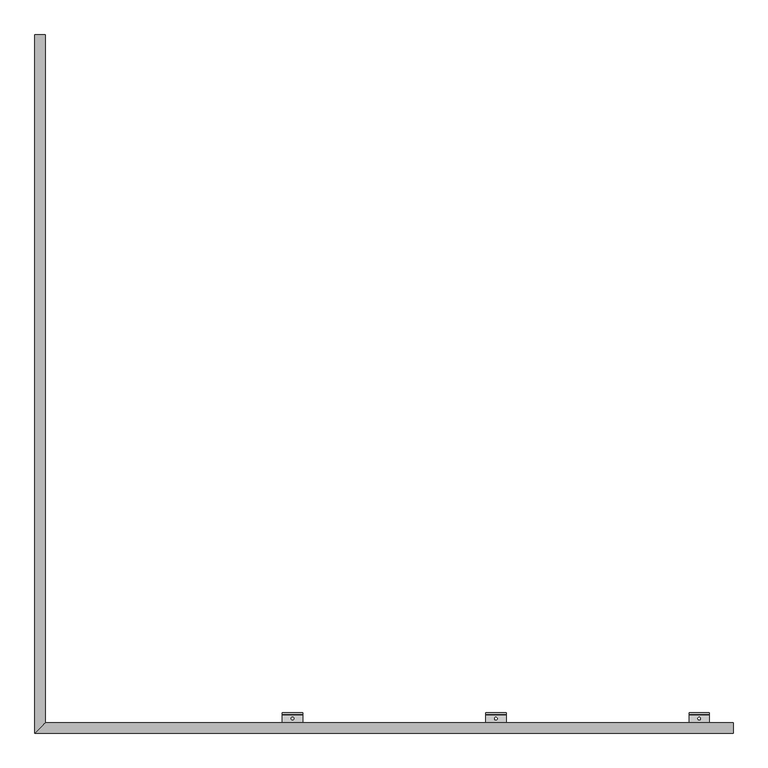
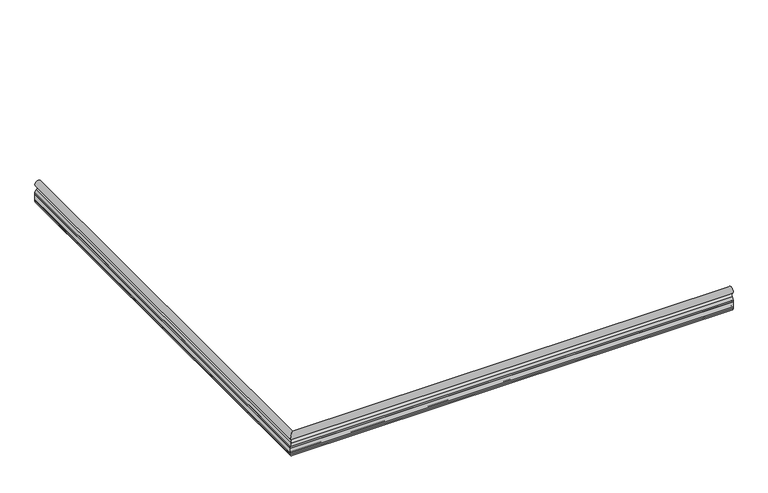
"""IFC4 building model written with IfcOpenShell, lengths in millimetres: railing geometry, Handrail-InPro-HR12-C-Prism-Metal_Bracket-Wood."""

from ifc_helpers import new_model, si_unit, frame, origin, place, context, project, spatial, polyline, circle_curve, ellipse_curve, faceted_brep, source, transform, mapped, element, save
from ifc_brep_helpers import plane_surface, cylinder_surface, revolved_surface, advanced_brep


def railing_651f2b22(model_context):
    return source(origin(), model_context, "Body", "SolidModel", [
        advanced_brep(
        [(-5387.2882624, 4334.5443008, 774.7), (-5406.3382624, 4334.5443008, 793.75), (-5406.3382624, 4334.5443008, 801.6875), (-5399.790597, 4334.5443008, 802.0967291), (-5399.9882624, 4334.5443008, 805.259375), (-5399.9882624, 4334.5443008, 831.05625), (-5399.790597, 4334.5443008, 834.2188959), (-5406.3382624, 4334.5443008, 834.628125), (-5406.3382624, 4334.5443008, 842.9625), (-5398.3936731, 4334.5443008, 858.8375), (-5398.3936731, 4334.5443008, 879.871875), (-5376.1828517, 4334.5443008, 879.871875), (-5373.0007624, 4334.5443008, 863.203125), (-5368.2382624, 4334.5443008, 857.25), (-5368.2382624, 4334.5443008, 779.4625), (-5373.0007624, 4334.5443008, 774.7), (-5387.2882624, 1737.3943008, 774.7), (-5406.3382624, 1718.3443008, 793.75), (-5406.3382624, 1718.3443008, 801.6875), (-5399.790597, 1724.8919661, 802.0967291), (-5399.9882624, 1724.6943008, 805.259375), (-5399.9882624, 1724.6943008, 831.05625), (-5399.790597, 1724.8919661, 834.2188959), (-5406.3382624, 1718.3443008, 834.628125), (-5406.3382624, 1718.3443008, 842.9625), (-5398.3936731, 1726.2888901, 858.8375), (-5398.3936731, 1726.2888901, 879.871875), (-5376.1828517, 1748.4997115, 879.871875), (-5373.0007624, 1751.6818008, 863.203125), (-5368.2382624, 1756.4443008, 857.25), (-5368.2382624, 1756.4443008, 779.4625), (-5373.0007624, 1751.6818008, 774.7), (-2790.1382624, 1737.3943008, 774.7), (-2790.1382624, 1751.6818008, 774.7), (-2790.1382624, 1756.4443008, 779.4625), (-2790.1382624, 1756.4443008, 857.25), (-2790.1382624, 1751.6818008, 863.203125), (-2790.1382624, 1748.4997115, 879.871875), (-2790.1382624, 1726.2888901, 879.871875), (-2790.1382624, 1726.2888901, 858.8375), (-2790.1382624, 1718.3443008, 842.9625), (-2790.1382624, 1718.3443008, 834.628125), (-2790.1382624, 1724.8919661, 834.2188959), (-2790.1382624, 1724.6943008, 831.05625), (-2790.1382624, 1724.6943008, 805.259375), (-2790.1382624, 1724.8919661, 802.0967291), (-2790.1382624, 1718.3443008, 801.6875), (-2790.1382624, 1718.3443008, 793.75)],
        [
            (0, 1, circle_curve(frame((-5387.2882624, 4334.5443008, 793.75), z_axis=(0.0, 1.0, 0.0), x_axis=(-1.0, 0.0, 0.0)), 19.05)),
            (1, 2),
            (2, 3),
            (3, 4, circle_curve(frame((-5399.9882624, 4334.5443008, 803.671875), z_axis=(0.0, -1.0, 0.0), x_axis=(-1.0, 0.0, 0.0)), 1.5875)),
            (4, 5),
            (5, 6, circle_curve(frame((-5399.9882624, 4334.5443008, 832.64375), z_axis=(0.0, -1.0, 0.0), x_axis=(-1.0, 0.0, 0.0)), 1.5875)),
            (6, 7),
            (7, 8),
            (8, 9, circle_curve(frame((-5386.5051337, 4334.5443008, 842.9625), z_axis=(0.0, 1.0, 0.0), x_axis=(-1.0, 0.0, 0.0)), 19.8331287)),
            (9, 10, circle_curve(frame((-5405.5688296, 4334.5443008, 869.3546875), z_axis=(0.0, -1.0, 0.0), x_axis=(-1.0, 0.0, 0.0)), 12.7316183)),
            (10, 11, circle_curve(frame((-5387.2882624, 4334.5443008, 895.35), z_axis=(0.0, 1.0, 0.0), x_axis=(-1.0, 0.0, 0.0)), 19.05)),
            (11, 12, circle_curve(frame((-5370.1173629, 4334.5443008, 872.3916781), z_axis=(0.0, -1.0, 0.0), x_axis=(-1.0, 0.0, 0.0)), 9.6303427)),
            (12, 13, circle_curve(frame((-5375.0460741, 4334.5443008, 856.6853131), z_axis=(0.0, 1.0, 0.0), x_axis=(-1.0, 0.0, 0.0)), 6.8311911)),
            (13, 14),
            (14, 15, circle_curve(frame((-5373.0007624, 4334.5443008, 779.4625), z_axis=(0.0, 1.0, 0.0), x_axis=(-1.0, 0.0, 0.0)), 4.7625)),
            (15, 0),
            (0, 16),
            (16, 17, ellipse_curve(frame((-5387.2882624, 1737.3943008, 793.75), z_axis=(-0.7071067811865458, 0.7071067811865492, 0.0), x_axis=(0.7071067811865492, 0.7071067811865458, 0.0)), 26.9407684, 19.05)),
            (17, 1),
            (17, 18),
            (18, 2),
            (18, 19),
            (19, 3),
            (19, 20, ellipse_curve(frame((-5399.9882624, 1724.6943008, 803.671875), z_axis=(0.7071067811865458, -0.7071067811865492, 0.0), x_axis=(-0.7071067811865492, -0.7071067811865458, 0.0)), 2.245064, 1.5875)),
            (20, 4),
            (20, 21),
            (21, 5),
            (21, 22, ellipse_curve(frame((-5399.9882624, 1724.6943008, 832.64375), z_axis=(0.7071067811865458, -0.7071067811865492, 0.0), x_axis=(-0.7071067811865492, -0.7071067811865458, 0.0)), 2.245064, 1.5875)),
            (22, 6),
            (22, 23),
            (23, 7),
            (23, 24),
            (24, 8),
            (24, 25, ellipse_curve(frame((-5386.5051337, 1738.1774295, 842.9625), z_axis=(-0.7071067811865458, 0.7071067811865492, 0.0), x_axis=(0.7071067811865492, 0.7071067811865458, 0.0)), 28.0482796, 19.8331287)),
            (25, 9),
            (25, 26, ellipse_curve(frame((-5405.5688296, 1719.1137335, 869.3546875), z_axis=(0.7071067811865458, -0.7071067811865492, 0.0), x_axis=(-0.7071067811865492, -0.7071067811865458, 0.0)), 18.0052273, 12.7316183)),
            (26, 10),
            (26, 27, ellipse_curve(frame((-5387.2882624, 1737.3943008, 895.35), z_axis=(-0.7071067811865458, 0.7071067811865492, 0.0), x_axis=(0.7071067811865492, 0.7071067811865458, 0.0)), 26.9407684, 19.05)),
            (27, 11),
            (27, 28, ellipse_curve(frame((-5370.1173629, 1754.5652002, 872.3916781), z_axis=(0.7071067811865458, -0.7071067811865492, 0.0), x_axis=(-0.7071067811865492, -0.7071067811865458, 0.0)), 13.6193612, 9.6303427)),
            (28, 12),
            (28, 29, ellipse_curve(frame((-5375.0460741, 1749.6364891, 856.6853131), z_axis=(-0.7071067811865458, 0.7071067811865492, 0.0), x_axis=(0.7071067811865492, 0.7071067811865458, 0.0)), 9.6607631, 6.8311911)),
            (29, 13),
            (29, 30),
            (30, 14),
            (30, 31, ellipse_curve(frame((-5373.0007624, 1751.6818008, 779.4625), z_axis=(-0.7071067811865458, 0.7071067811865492, 0.0), x_axis=(0.7071067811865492, 0.7071067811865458, 0.0)), 6.7351921, 4.7625)),
            (31, 15),
            (31, 16),
            (32, 33),
            (33, 34, circle_curve(frame((-2790.1382624, 1751.6818008, 779.4625), z_axis=(1.0, 0.0, 0.0), x_axis=(0.0, -1.0, 0.0)), 4.7625)),
            (34, 35),
            (35, 36, circle_curve(frame((-2790.1382624, 1749.6364891, 856.6853131), z_axis=(1.0, 0.0, 0.0), x_axis=(0.0, -1.0, 0.0)), 6.8311911)),
            (36, 37, circle_curve(frame((-2790.1382624, 1754.5652002, 872.3916781), z_axis=(-1.0, 0.0, 0.0), x_axis=(0.0, -1.0, 0.0)), 9.6303427)),
            (37, 38, circle_curve(frame((-2790.1382624, 1737.3943008, 895.35), z_axis=(1.0, 0.0, 0.0), x_axis=(0.0, -1.0, 0.0)), 19.05)),
            (38, 39, circle_curve(frame((-2790.1382624, 1719.1137335, 869.3546875), z_axis=(-1.0, 0.0, 0.0), x_axis=(0.0, -1.0, 0.0)), 12.7316183)),
            (39, 40, circle_curve(frame((-2790.1382624, 1738.1774295, 842.9625), z_axis=(1.0, 0.0, 0.0), x_axis=(0.0, -1.0, 0.0)), 19.8331287)),
            (40, 41),
            (41, 42),
            (42, 43, circle_curve(frame((-2790.1382624, 1724.6943008, 832.64375), z_axis=(-1.0, 0.0, 0.0), x_axis=(0.0, -1.0, 0.0)), 1.5875)),
            (43, 44),
            (44, 45, circle_curve(frame((-2790.1382624, 1724.6943008, 803.671875), z_axis=(-1.0, 0.0, 0.0), x_axis=(0.0, -1.0, 0.0)), 1.5875)),
            (45, 46),
            (46, 47),
            (47, 32, circle_curve(frame((-2790.1382624, 1737.3943008, 793.75), z_axis=(1.0, 0.0, 0.0), x_axis=(0.0, -1.0, 0.0)), 19.05)),
            (16, 32),
            (47, 17),
            (46, 18),
            (45, 19),
            (44, 20),
            (43, 21),
            (42, 22),
            (41, 23),
            (40, 24),
            (39, 25),
            (38, 26),
            (37, 27),
            (36, 28),
            (35, 29),
            (34, 30),
            (33, 31),
        ],
        [
            plane_surface(frame((-5330.1382624, 4334.5443008, 914.4), z_axis=(0.0, 1.0, 0.0), x_axis=(0.0, 0.0, -1.0))),
            cylinder_surface(frame((-5387.2882624, 4334.5443008, 793.75), z_axis=(0.0, 1.0, 0.0), x_axis=(-1.0, 0.0, 0.0)), 19.05),
            plane_surface(frame((-5406.3382624, 4334.5443008, 793.75), z_axis=(-1.0, 0.0, 0.0), x_axis=(0.0, -1.0, 0.0))),
            plane_surface(frame((-5406.3382624, 4334.5443008, 801.6875), z_axis=(-0.06237828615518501, 0.0, 0.9980525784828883), x_axis=(0.0, -1.0, 0.0))),
            revolved_surface(polyline([(-5401.5757624, 1723.106800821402, 803.671875), (-5401.5757624, 4334.5443008, 803.671875)]), (-5399.9882624, 4334.5443008, 803.671875), (0.0, -1.0, 0.0)),
            plane_surface(frame((-5399.9882624, 4334.5443008, 805.259375), z_axis=(-1.0, 0.0, 0.0), x_axis=(0.0, -1.0, 0.0))),
            revolved_surface(polyline([(-5401.5757624, 1723.106800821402, 832.64375), (-5401.5757624, 4334.5443008, 832.64375)]), (-5399.9882624, 4334.5443008, 832.64375), (0.0, -1.0, 0.0)),
            plane_surface(frame((-5399.790597, 4334.5443008, 834.2188959), z_axis=(-0.062378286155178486, 0.0, -0.9980525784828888), x_axis=(0.0, -1.0, 0.0))),
            plane_surface(frame((-5406.3382624, 4334.5443008, 834.628125), z_axis=(-1.0, 0.0, 0.0), x_axis=(0.0, -1.0, 0.0))),
            cylinder_surface(frame((-5386.5051337, 4334.5443008, 842.9625), z_axis=(0.0, 1.0, 0.0), x_axis=(-1.0, 0.0, 0.0)), 19.8331287),
            revolved_surface(polyline([(-5418.3004479, 1706.382115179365, 869.3546875), (-5418.3004479, 4334.5443008, 869.3546875)]), (-5405.5688296, 4334.5443008, 869.3546875), (0.0, -1.0, 0.0)),
            cylinder_surface(frame((-5387.2882624, 4334.5443008, 895.35), z_axis=(0.0, 1.0, 0.0), x_axis=(-1.0, 0.0, 0.0)), 19.05),
            revolved_surface(polyline([(-5379.747705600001, 1744.9348575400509, 872.3916781), (-5379.747705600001, 4334.5443008, 872.3916781)]), (-5370.1173629, 4334.5443008, 872.3916781), (0.0, -1.0, 0.0)),
            cylinder_surface(frame((-5375.0460741, 4334.5443008, 856.6853131), z_axis=(0.0, 1.0, 0.0), x_axis=(-1.0, 0.0, 0.0)), 6.8311911),
            plane_surface(frame((-5368.2382624, 4334.5443008, 857.25), z_axis=(1.0, 0.0, 0.0), x_axis=(0.0, -1.0, 0.0))),
            cylinder_surface(frame((-5373.0007624, 4334.5443008, 779.4625), z_axis=(0.0, 1.0, 0.0), x_axis=(-1.0, 0.0, 0.0)), 4.7625),
            plane_surface(frame((-5373.0007624, 4334.5443008, 774.7), z_axis=(0.0, 0.0, -1.0), x_axis=(0.0, -1.0, 0.0))),
            plane_surface(frame((-2790.1382624, 1794.5443008, 914.4), z_axis=(1.0, 0.0, 0.0), x_axis=(0.0, 1.0, 0.0))),
            cylinder_surface(frame((-5330.1382624, 1737.3943008, 793.75), z_axis=(-1.0, 0.0, 0.0), x_axis=(0.0, -1.0, 0.0)), 19.05),
            plane_surface(frame((-5406.3382624, 1718.3443008, 793.75), z_axis=(0.0, -1.0, 0.0), x_axis=(1.0, 0.0, 0.0))),
            plane_surface(frame((-5406.3382624, 1718.3443008, 801.6875), z_axis=(0.0, -0.06237828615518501, 0.9980525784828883), x_axis=(1.0, 0.0, 0.0))),
            revolved_surface(polyline([(-2790.1382624, 1723.1068008, 803.671875), (-5401.575762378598, 1723.1068008, 803.671875)]), (-5330.1382624, 1724.6943008, 803.671875), (1.0, 0.0, 0.0)),
            plane_surface(frame((-5399.9882624, 1724.6943008, 805.259375), z_axis=(0.0, -1.0, 0.0), x_axis=(1.0, 0.0, 0.0))),
            revolved_surface(polyline([(-2790.1382624, 1723.1068008, 832.64375), (-5401.575762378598, 1723.1068008, 832.64375)]), (-5330.1382624, 1724.6943008, 832.64375), (1.0, 0.0, 0.0)),
            plane_surface(frame((-5399.790597, 1724.8919661, 834.2188959), z_axis=(0.0, -0.062378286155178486, -0.9980525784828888), x_axis=(1.0, 0.0, 0.0))),
            plane_surface(frame((-5406.3382624, 1718.3443008, 834.628125), z_axis=(0.0, -1.0, 0.0), x_axis=(1.0, 0.0, 0.0))),
            cylinder_surface(frame((-5330.1382624, 1738.1774295, 842.9625), z_axis=(-1.0, 0.0, 0.0), x_axis=(0.0, -1.0, 0.0)), 19.8331287),
            revolved_surface(polyline([(-2790.1382624, 1706.3821152, 869.3546875), (-5418.300447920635, 1706.3821152, 869.3546875)]), (-5330.1382624, 1719.1137335, 869.3546875), (1.0, 0.0, 0.0)),
            cylinder_surface(frame((-5330.1382624, 1737.3943008, 895.35), z_axis=(-1.0, 0.0, 0.0), x_axis=(0.0, -1.0, 0.0)), 19.05),
            revolved_surface(polyline([(-2790.1382624, 1744.9348575, 872.3916781), (-5379.747705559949, 1744.9348575, 872.3916781)]), (-5330.1382624, 1754.5652002, 872.3916781), (1.0, 0.0, 0.0)),
            cylinder_surface(frame((-5330.1382624, 1749.6364891, 856.6853131), z_axis=(-1.0, 0.0, 0.0), x_axis=(0.0, -1.0, 0.0)), 6.8311911),
            plane_surface(frame((-5368.2382624, 1756.4443008, 857.25), z_axis=(0.0, 1.0, 0.0), x_axis=(1.0, 0.0, 0.0))),
            cylinder_surface(frame((-5330.1382624, 1751.6818008, 779.4625), z_axis=(-1.0, 0.0, 0.0), x_axis=(0.0, -1.0, 0.0)), 4.7625),
            plane_surface(frame((-5373.0007624, 1751.6818008, 774.7), z_axis=(0.0, 0.0, -1.0), x_axis=(1.0, 0.0, 0.0))),
        ],
        [
            (0, [[1, 2, 3, 4, 5, 6, 7, 8, 9, 10, 11, 12, 13, 14, 15, 16]]),
            (1, [[-1, 17, 18, 19]]),
            (2, [[-2, -19, 20, 21]]),
            (3, [[-3, -21, 22, 23]]),
            (4, [[-4, -23, 24, 25]]),
            (5, [[-5, -25, 26, 27]]),
            (6, [[-6, -27, 28, 29]]),
            (7, [[-7, -29, 30, 31]]),
            (8, [[-8, -31, 32, 33]]),
            (9, [[-9, -33, 34, 35]]),
            (10, [[-10, -35, 36, 37]]),
            (11, [[-11, -37, 38, 39]]),
            (12, [[-12, -39, 40, 41]]),
            (13, [[-13, -41, 42, 43]]),
            (14, [[-14, -43, 44, 45]]),
            (15, [[-15, -45, 46, 47]]),
            (16, [[-16, -47, 48, -17]]),
            (17, [[49, 50, 51, 52, 53, 54, 55, 56, 57, 58, 59, 60, 61, 62, 63, 64]]),
            (18, [[-18, 65, -64, 66]]),
            (19, [[-20, -66, -63, 67]]),
            (20, [[-22, -67, -62, 68]]),
            (21, [[-24, -68, -61, 69]]),
            (22, [[-26, -69, -60, 70]]),
            (23, [[-28, -70, -59, 71]]),
            (24, [[-30, -71, -58, 72]]),
            (25, [[-32, -72, -57, 73]]),
            (26, [[-34, -73, -56, 74]]),
            (27, [[-36, -74, -55, 75]]),
            (28, [[-38, -75, -54, 76]]),
            (29, [[-40, -76, -53, 77]]),
            (30, [[-42, -77, -52, 78]]),
            (31, [[-44, -78, -51, 79]]),
            (32, [[-46, -79, -50, 80]]),
            (33, [[-48, -80, -49, -65]]),
        ],
    ),
        faceted_brep([(-5406.3382624, 4334.5443008, 802.48125), (-5406.3382624, 4334.5443008, 834.1320312), (-5399.9882624, 4334.5443008, 834.1320313), (-5399.9882624, 4334.5443008, 802.48125), (-5406.3382624, 1718.3443008, 802.48125), (-5406.3382624, 1718.3443008, 834.1320312), (-5399.9882624, 1724.6943008, 834.1320313), (-5399.9882624, 1724.6943008, 802.48125), (-2790.1382624, 1718.3443008, 802.48125), (-2790.1382624, 1724.6943008, 802.48125), (-2790.1382624, 1724.6943008, 834.1320312), (-2790.1382624, 1718.3443008, 834.1320313)], [[[0, 1, 2, 3]], [[1, 0, 4, 5]], [[2, 1, 5, 6]], [[3, 2, 6, 7]], [[0, 3, 7, 4]], [[8, 9, 10, 11]], [[5, 4, 8, 11]], [[6, 5, 11, 10]], [[7, 6, 10, 9]], [[4, 7, 9, 8]]]),
        advanced_brep(
        [(-2879.0382624, 1762.7943008, 844.55), (-2879.0382624, 1785.0193008, 844.55), (-2879.0382624, 1785.0193008, 850.9), (-2879.0382624, 1756.4443008, 850.9), (-2879.0382624, 1756.4443008, 812.8), (-2879.0382624, 1762.7943008, 812.8), (-2955.2382624, 1762.7943008, 844.55), (-2955.2382624, 1762.7943008, 812.8), (-2955.2382624, 1756.4443008, 812.8), (-2955.2382624, 1756.4443008, 850.9), (-2955.2382624, 1785.0193008, 850.9), (-2955.2382624, 1785.0193008, 844.55), (-2921.9007624, 1772.7161758, 844.55), (-2912.3757624, 1772.7161758, 844.55), (-2912.3757624, 1772.7161758, 850.9), (-2921.9007624, 1772.7161758, 850.9), (-2933.4704624, 1756.4443008, 825.3070671), (-2938.9060624, 1756.4443008, 825.3070671), (-2895.3704624, 1756.4443008, 825.3070671), (-2900.8060624, 1756.4443008, 825.3070671), (-2938.9060624, 1762.7943008, 825.3070671), (-2933.4704624, 1762.7943008, 825.3070671), (-2900.8060624, 1762.7943008, 825.3070671), (-2895.3704624, 1762.7943008, 825.3070671)],
        [
            (0, 1),
            (1, 2),
            (2, 3),
            (3, 4),
            (4, 5),
            (5, 0),
            (6, 7),
            (7, 8),
            (8, 9),
            (9, 10),
            (10, 11),
            (11, 6),
            (0, 6),
            (11, 1),
            (12, 13, circle_curve(frame((-2917.1382624, 1772.7161758, 844.55), z_axis=(0.0, 0.0, 1.0), x_axis=(1.0, 0.0, 0.0)), 4.7625)),
            (13, 12, circle_curve(frame((-2917.1382624, 1772.7161758, 844.55), z_axis=(0.0, 0.0, 1.0), x_axis=(1.0, 0.0, 0.0)), 4.7625)),
            (10, 2),
            (9, 3),
            (14, 15, circle_curve(frame((-2917.1382624, 1772.7161758, 850.9), z_axis=(0.0, 0.0, -1.0), x_axis=(1.0, 0.0, 0.0)), 4.7625)),
            (15, 14, circle_curve(frame((-2917.1382624, 1772.7161758, 850.9), z_axis=(0.0, 0.0, -1.0), x_axis=(1.0, 0.0, 0.0)), 4.7625)),
            (8, 4),
            (16, 17, circle_curve(frame((-2936.1882624, 1756.4443008, 825.3070671), z_axis=(0.0, 1.0, 0.0), x_axis=(-1.0, 0.0, 0.0)), 2.7178)),
            (17, 16, circle_curve(frame((-2936.1882624, 1756.4443008, 825.3070671), z_axis=(0.0, 1.0, 0.0), x_axis=(-1.0, 0.0, 0.0)), 2.7178)),
            (18, 19, circle_curve(frame((-2898.0882624, 1756.4443008, 825.3070671), z_axis=(0.0, 1.0, 0.0), x_axis=(-1.0, 0.0, 0.0)), 2.7178)),
            (19, 18, circle_curve(frame((-2898.0882624, 1756.4443008, 825.3070671), z_axis=(0.0, 1.0, 0.0), x_axis=(-1.0, 0.0, 0.0)), 2.7178)),
            (7, 5),
            (20, 21, circle_curve(frame((-2936.1882624, 1762.7943008, 825.3070671), z_axis=(0.0, -1.0, 0.0), x_axis=(-1.0, 0.0, 0.0)), 2.7178)),
            (21, 20, circle_curve(frame((-2936.1882624, 1762.7943008, 825.3070671), z_axis=(0.0, -1.0, 0.0), x_axis=(-1.0, 0.0, 0.0)), 2.7178)),
            (22, 23, circle_curve(frame((-2898.0882624, 1762.7943008, 825.3070671), z_axis=(0.0, -1.0, 0.0), x_axis=(-1.0, 0.0, 0.0)), 2.7178)),
            (23, 22, circle_curve(frame((-2898.0882624, 1762.7943008, 825.3070671), z_axis=(0.0, -1.0, 0.0), x_axis=(-1.0, 0.0, 0.0)), 2.7178)),
            (12, 15),
            (14, 13),
            (20, 17),
            (16, 21),
            (22, 19),
            (18, 23),
        ],
        [
            plane_surface(frame((-2879.0382624, 1762.7943008, 844.55), z_axis=(1.0, 0.0, 0.0), x_axis=(0.0, 1.0, 0.0))),
            plane_surface(frame((-2955.2382624, 1762.7943008, 844.55), z_axis=(-1.0, 0.0, 0.0), x_axis=(0.0, -1.0, 0.0))),
            plane_surface(frame((-2879.0382624, 1762.7943008, 844.55), z_axis=(0.0, 0.0, -1.0), x_axis=(-1.0, 0.0, 0.0))),
            plane_surface(frame((-2879.0382624, 1785.0193008, 844.55), z_axis=(0.0, 1.0, 0.0), x_axis=(-1.0, 0.0, 0.0))),
            plane_surface(frame((-2879.0382624, 1785.0193008, 850.9), z_axis=(0.0, 0.0, 1.0), x_axis=(-1.0, 0.0, 0.0))),
            plane_surface(frame((-2879.0382624, 1756.4443008, 850.9), z_axis=(0.0, -1.0, 0.0), x_axis=(-1.0, 0.0, 0.0))),
            plane_surface(frame((-2879.0382624, 1756.4443008, 812.8), z_axis=(0.0, 0.0, -1.0), x_axis=(-1.0, 0.0, 0.0))),
            plane_surface(frame((-2879.0382624, 1762.7943008, 812.8), z_axis=(0.0, 1.0, 0.0), x_axis=(-1.0, 0.0, 0.0))),
            revolved_surface(polyline([(-2912.3757624, 1772.7161758, 850.9), (-2912.3757624, 1772.7161758, 844.55)]), (-2917.1382624, 1772.7161758, 812.8), (0.0, 0.0, 1.0)),
            revolved_surface(polyline([(-2938.9060624, 1762.7943008, 825.3070671), (-2938.9060624, 1756.4443008, 825.3070671)]), (-2936.1882624, 1756.4443008, 825.3070671), (0.0, 1.0, 0.0)),
            revolved_surface(polyline([(-2900.8060624, 1762.7943008, 825.3070671), (-2900.8060624, 1756.4443008, 825.3070671)]), (-2898.0882624, 1794.5443008, 825.3070671), (0.0, 1.0, 0.0)),
        ],
        [
            (0, [[1, 2, 3, 4, 5, 6]]),
            (1, [[7, 8, 9, 10, 11, 12]]),
            (2, [[-1, 13, -12, 14], [15, 16]]),
            (3, [[-2, -14, -11, 17]]),
            (4, [[-3, -17, -10, 18], [19, 20]]),
            (5, [[-4, -18, -9, 21], [22, 23], [24, 25]]),
            (6, [[-5, -21, -8, 26]]),
            (7, [[-6, -26, -7, -13], [27, 28], [29, 30]]),
            (8, [[31, -19, 32, -15]]),
            (8, [[-31, -16, -32, -20]]),
            (9, [[33, -22, 34, -27]]),
            (9, [[-33, -28, -34, -23]]),
            (10, [[35, -24, 36, -29]]),
            (10, [[-35, -30, -36, -25]]),
        ],
    ),
        advanced_brep(
        [(-2879.0382624, 1788.1943008, 812.8), (-2879.0382624, 1794.5443008, 812.8), (-2879.0382624, 1794.5443008, 850.9), (-2879.0382624, 1788.1943008, 850.9), (-2879.0382624, 1788.1943008, 844.55), (-2879.0382624, 1766.7630508, 844.55), (-2879.0382624, 1766.7630508, 838.2), (-2879.0382624, 1778.6693008, 838.2), (-2879.0382624, 1788.1943008, 828.675), (-2955.2382624, 1788.1943008, 812.8), (-2955.2382624, 1788.1943008, 828.675), (-2955.2382624, 1778.6693008, 838.2), (-2955.2382624, 1766.7630508, 838.2), (-2955.2382624, 1766.7630508, 844.55), (-2955.2382624, 1788.1943008, 844.55), (-2955.2382624, 1788.1943008, 850.9), (-2955.2382624, 1794.5443008, 850.9), (-2955.2382624, 1794.5443008, 812.8), (-2923.0913874, 1794.5443008, 825.3070671), (-2911.1851374, 1794.5443008, 825.3070671), (-2912.3757624, 1772.7161758, 844.55), (-2921.9007624, 1772.7161758, 844.55), (-2921.9007624, 1772.7161758, 838.2), (-2912.3757624, 1772.7161758, 838.2), (-2922.0471039, 1788.1943008, 828.675), (-2912.2294208, 1788.1943008, 828.675), (-2911.1851374, 1788.1943008, 825.3070671), (-2923.0913874, 1788.1943008, 825.3070671)],
        [
            (0, 1),
            (1, 2),
            (2, 3),
            (3, 4),
            (4, 5),
            (5, 6),
            (6, 7),
            (7, 8),
            (8, 0),
            (9, 10),
            (10, 11),
            (11, 12),
            (12, 13),
            (13, 14),
            (14, 15),
            (15, 16),
            (16, 17),
            (17, 9),
            (0, 9),
            (17, 1),
            (16, 2),
            (18, 19, circle_curve(frame((-2917.1382624, 1794.5443008, 825.3070671), z_axis=(0.0, -1.0, 0.0), x_axis=(-1.0, 0.0, 0.0)), 5.953125)),
            (19, 18, circle_curve(frame((-2917.1382624, 1794.5443008, 825.3070671), z_axis=(0.0, -1.0, 0.0), x_axis=(-1.0, 0.0, 0.0)), 5.953125)),
            (15, 3),
            (14, 4),
            (13, 5),
            (20, 21, circle_curve(frame((-2917.1382624, 1772.7161758, 844.55), z_axis=(0.0, 0.0, -1.0), x_axis=(1.0, 0.0, 0.0)), 4.7625)),
            (21, 20, circle_curve(frame((-2917.1382624, 1772.7161758, 844.55), z_axis=(0.0, 0.0, -1.0), x_axis=(1.0, 0.0, 0.0)), 4.7625)),
            (12, 6),
            (11, 7),
            (22, 23, circle_curve(frame((-2917.1382624, 1772.7161758, 838.2), z_axis=(0.0, 0.0, 1.0), x_axis=(1.0, 0.0, 0.0)), 4.7625)),
            (23, 22, circle_curve(frame((-2917.1382624, 1772.7161758, 838.2), z_axis=(0.0, 0.0, 1.0), x_axis=(1.0, 0.0, 0.0)), 4.7625)),
            (10, 24),
            (24, 25, ellipse_curve(frame((-2917.1382624, 1791.5622336, 825.3070671), z_axis=(0.0, 0.7071067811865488, 0.7071067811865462), x_axis=(0.0, 0.7071067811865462, -0.7071067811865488)), 8.4189901, 5.953125)),
            (25, 8),
            (25, 26, circle_curve(frame((-2917.1382624, 1788.1943008, 825.3070671), z_axis=(0.0, 1.0, 0.0), x_axis=(-1.0, 0.0, 0.0)), 5.953125)),
            (26, 27, circle_curve(frame((-2917.1382624, 1788.1943008, 825.3070671), z_axis=(0.0, 1.0, 0.0), x_axis=(-1.0, 0.0, 0.0)), 5.953125)),
            (27, 24, circle_curve(frame((-2917.1382624, 1788.1943008, 825.3070671), z_axis=(0.0, 1.0, 0.0), x_axis=(-1.0, 0.0, 0.0)), 5.953125)),
            (22, 21),
            (20, 23),
            (26, 19),
            (18, 27),
        ],
        [
            plane_surface(frame((-2879.0382624, 1794.5443008, 812.8), z_axis=(1.0, 0.0, 0.0), x_axis=(0.0, 1.0, 0.0))),
            plane_surface(frame((-2955.2382624, 1794.5443008, 812.8), z_axis=(-1.0, 0.0, 0.0), x_axis=(0.0, -1.0, 0.0))),
            plane_surface(frame((-2879.0382624, 1788.1943008, 812.8), z_axis=(0.0, 0.0, -1.0), x_axis=(-1.0, 0.0, 0.0))),
            plane_surface(frame((-2879.0382624, 1794.5443008, 812.8), z_axis=(0.0, 1.0, 0.0), x_axis=(-1.0, 0.0, 0.0))),
            plane_surface(frame((-2879.0382624, 1794.5443008, 850.9), z_axis=(0.0, 0.0, 1.0), x_axis=(-1.0, 0.0, 0.0))),
            plane_surface(frame((-2879.0382624, 1788.1943008, 850.9), z_axis=(0.0, -1.0, 0.0), x_axis=(-1.0, 0.0, 0.0))),
            plane_surface(frame((-2879.0382624, 1788.1943008, 844.55), z_axis=(0.0, 0.0, 1.0), x_axis=(-1.0, 0.0, 0.0))),
            plane_surface(frame((-2879.0382624, 1766.7630508, 844.55), z_axis=(0.0, -1.0, 0.0), x_axis=(-1.0, 0.0, 0.0))),
            plane_surface(frame((-2879.0382624, 1766.7630508, 838.2), z_axis=(0.0, 0.0, -1.0), x_axis=(-1.0, 0.0, 0.0))),
            plane_surface(frame((-2879.0382624, 1778.6693008, 838.2), z_axis=(0.0, -0.7071067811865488, -0.7071067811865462), x_axis=(-1.0, 0.0, 0.0))),
            plane_surface(frame((-2879.0382624, 1788.1943008, 828.675), z_axis=(0.0, -1.0, 0.0), x_axis=(-1.0, 0.0, 0.0))),
            revolved_surface(polyline([(-2912.3757624, 1772.7161758, 844.55), (-2912.3757624, 1772.7161758, 838.2)]), (-2917.1382624, 1772.7161758, 812.8), (0.0, 0.0, 1.0)),
            revolved_surface(polyline([(-2923.0913874, 1794.5443008, 825.3070671), (-2923.0913874, 1788.1943008, 825.3070671)]), (-2917.1382624, 1785.0193008, 825.3070671), (0.0, 1.0, 0.0)),
            revolved_surface(polyline([(-2923.0913874, 1797.5153585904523, 825.3070671), (-2923.0913874, 1785.6091086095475, 825.3070671)]), (-2917.1382624, 1785.0193008, 825.3070671), (0.0, 1.0, 0.0)),
        ],
        [
            (0, [[1, 2, 3, 4, 5, 6, 7, 8, 9]]),
            (1, [[10, 11, 12, 13, 14, 15, 16, 17, 18]]),
            (2, [[-1, 19, -18, 20]]),
            (3, [[-2, -20, -17, 21], [22, 23]]),
            (4, [[-3, -21, -16, 24]]),
            (5, [[-4, -24, -15, 25]]),
            (6, [[-5, -25, -14, 26], [27, 28]]),
            (7, [[-6, -26, -13, 29]]),
            (8, [[-7, -29, -12, 30], [31, 32]]),
            (9, [[-8, -30, -11, 33, 34, 35]]),
            (10, [[-9, -35, 36, 37, 38, -33, -10, -19]]),
            (11, [[39, -27, 40, -31]]),
            (11, [[-39, -32, -40, -28]]),
            (12, [[41, -22, 42, -37]]),
            (13, [[-41, -36, -34, -38, -42, -23]]),
        ],
    ),
        advanced_brep(
        [(-3641.0382624, 1762.7943008, 844.55), (-3641.0382624, 1785.0193008, 844.55), (-3641.0382624, 1785.0193008, 850.9), (-3641.0382624, 1756.4443008, 850.9), (-3641.0382624, 1756.4443008, 812.8), (-3641.0382624, 1762.7943008, 812.8), (-3717.2382624, 1762.7943008, 844.55), (-3717.2382624, 1762.7943008, 812.8), (-3717.2382624, 1756.4443008, 812.8), (-3717.2382624, 1756.4443008, 850.9), (-3717.2382624, 1785.0193008, 850.9), (-3717.2382624, 1785.0193008, 844.55), (-3683.9007624, 1772.7161758, 844.55), (-3674.3757624, 1772.7161758, 844.55), (-3674.3757624, 1772.7161758, 850.9), (-3683.9007624, 1772.7161758, 850.9), (-3695.4704624, 1756.4443008, 825.3070671), (-3700.9060624, 1756.4443008, 825.3070671), (-3657.3704624, 1756.4443008, 825.3070671), (-3662.8060624, 1756.4443008, 825.3070671), (-3700.9060624, 1762.7943008, 825.3070671), (-3695.4704624, 1762.7943008, 825.3070671), (-3662.8060624, 1762.7943008, 825.3070671), (-3657.3704624, 1762.7943008, 825.3070671)],
        [
            (0, 1),
            (1, 2),
            (2, 3),
            (3, 4),
            (4, 5),
            (5, 0),
            (6, 7),
            (7, 8),
            (8, 9),
            (9, 10),
            (10, 11),
            (11, 6),
            (0, 6),
            (11, 1),
            (12, 13, circle_curve(frame((-3679.1382624, 1772.7161758, 844.55), z_axis=(0.0, 0.0, 1.0), x_axis=(1.0, 0.0, 0.0)), 4.7625)),
            (13, 12, circle_curve(frame((-3679.1382624, 1772.7161758, 844.55), z_axis=(0.0, 0.0, 1.0), x_axis=(1.0, 0.0, 0.0)), 4.7625)),
            (10, 2),
            (9, 3),
            (14, 15, circle_curve(frame((-3679.1382624, 1772.7161758, 850.9), z_axis=(0.0, 0.0, -1.0), x_axis=(1.0, 0.0, 0.0)), 4.7625)),
            (15, 14, circle_curve(frame((-3679.1382624, 1772.7161758, 850.9), z_axis=(0.0, 0.0, -1.0), x_axis=(1.0, 0.0, 0.0)), 4.7625)),
            (8, 4),
            (16, 17, circle_curve(frame((-3698.1882624, 1756.4443008, 825.3070671), z_axis=(0.0, 1.0, 0.0), x_axis=(-1.0, 0.0, 0.0)), 2.7178)),
            (17, 16, circle_curve(frame((-3698.1882624, 1756.4443008, 825.3070671), z_axis=(0.0, 1.0, 0.0), x_axis=(-1.0, 0.0, 0.0)), 2.7178)),
            (18, 19, circle_curve(frame((-3660.0882624, 1756.4443008, 825.3070671), z_axis=(0.0, 1.0, 0.0), x_axis=(-1.0, 0.0, 0.0)), 2.7178)),
            (19, 18, circle_curve(frame((-3660.0882624, 1756.4443008, 825.3070671), z_axis=(0.0, 1.0, 0.0), x_axis=(-1.0, 0.0, 0.0)), 2.7178)),
            (7, 5),
            (20, 21, circle_curve(frame((-3698.1882624, 1762.7943008, 825.3070671), z_axis=(0.0, -1.0, 0.0), x_axis=(-1.0, 0.0, 0.0)), 2.7178)),
            (21, 20, circle_curve(frame((-3698.1882624, 1762.7943008, 825.3070671), z_axis=(0.0, -1.0, 0.0), x_axis=(-1.0, 0.0, 0.0)), 2.7178)),
            (22, 23, circle_curve(frame((-3660.0882624, 1762.7943008, 825.3070671), z_axis=(0.0, -1.0, 0.0), x_axis=(-1.0, 0.0, 0.0)), 2.7178)),
            (23, 22, circle_curve(frame((-3660.0882624, 1762.7943008, 825.3070671), z_axis=(0.0, -1.0, 0.0), x_axis=(-1.0, 0.0, 0.0)), 2.7178)),
            (12, 15),
            (14, 13),
            (20, 17),
            (16, 21),
            (22, 19),
            (18, 23),
        ],
        [
            plane_surface(frame((-3641.0382624, 1762.7943008, 844.55), z_axis=(1.0, 0.0, 0.0), x_axis=(0.0, 1.0, 0.0))),
            plane_surface(frame((-3717.2382624, 1762.7943008, 844.55), z_axis=(-1.0, 0.0, 0.0), x_axis=(0.0, -1.0, 0.0))),
            plane_surface(frame((-3641.0382624, 1762.7943008, 844.55), z_axis=(0.0, 0.0, -1.0), x_axis=(-1.0, 0.0, 0.0))),
            plane_surface(frame((-3641.0382624, 1785.0193008, 844.55), z_axis=(0.0, 1.0, 0.0), x_axis=(-1.0, 0.0, 0.0))),
            plane_surface(frame((-3641.0382624, 1785.0193008, 850.9), z_axis=(0.0, 0.0, 1.0), x_axis=(-1.0, 0.0, 0.0))),
            plane_surface(frame((-3641.0382624, 1756.4443008, 850.9), z_axis=(0.0, -1.0, 0.0), x_axis=(-1.0, 0.0, 0.0))),
            plane_surface(frame((-3641.0382624, 1756.4443008, 812.8), z_axis=(0.0, 0.0, -1.0), x_axis=(-1.0, 0.0, 0.0))),
            plane_surface(frame((-3641.0382624, 1762.7943008, 812.8), z_axis=(0.0, 1.0, 0.0), x_axis=(-1.0, 0.0, 0.0))),
            revolved_surface(polyline([(-3674.3757624, 1772.7161758, 850.9), (-3674.3757624, 1772.7161758, 844.55)]), (-3679.1382624, 1772.7161758, 812.8), (0.0, 0.0, 1.0)),
            revolved_surface(polyline([(-3700.9060624, 1762.7943008, 825.3070671), (-3700.9060624, 1756.4443008, 825.3070671)]), (-3698.1882624, 1756.4443008, 825.3070671), (0.0, 1.0, 0.0)),
            revolved_surface(polyline([(-3662.8060624, 1762.7943008, 825.3070671), (-3662.8060624, 1756.4443008, 825.3070671)]), (-3660.0882624, 1794.5443008, 825.3070671), (0.0, 1.0, 0.0)),
        ],
        [
            (0, [[1, 2, 3, 4, 5, 6]]),
            (1, [[7, 8, 9, 10, 11, 12]]),
            (2, [[-1, 13, -12, 14], [15, 16]]),
            (3, [[-2, -14, -11, 17]]),
            (4, [[-3, -17, -10, 18], [19, 20]]),
            (5, [[-4, -18, -9, 21], [22, 23], [24, 25]]),
            (6, [[-5, -21, -8, 26]]),
            (7, [[-6, -26, -7, -13], [27, 28], [29, 30]]),
            (8, [[31, -19, 32, -15]]),
            (8, [[-31, -16, -32, -20]]),
            (9, [[33, -22, 34, -27]]),
            (9, [[-33, -28, -34, -23]]),
            (10, [[35, -24, 36, -29]]),
            (10, [[-35, -30, -36, -25]]),
        ],
    ),
        advanced_brep(
        [(-3641.0382624, 1788.1943008, 812.8), (-3641.0382624, 1794.5443008, 812.8), (-3641.0382624, 1794.5443008, 850.9), (-3641.0382624, 1788.1943008, 850.9), (-3641.0382624, 1788.1943008, 844.55), (-3641.0382624, 1766.7630508, 844.55), (-3641.0382624, 1766.7630508, 838.2), (-3641.0382624, 1778.6693008, 838.2), (-3641.0382624, 1788.1943008, 828.675), (-3717.2382624, 1788.1943008, 812.8), (-3717.2382624, 1788.1943008, 828.675), (-3717.2382624, 1778.6693008, 838.2), (-3717.2382624, 1766.7630508, 838.2), (-3717.2382624, 1766.7630508, 844.55), (-3717.2382624, 1788.1943008, 844.55), (-3717.2382624, 1788.1943008, 850.9), (-3717.2382624, 1794.5443008, 850.9), (-3717.2382624, 1794.5443008, 812.8), (-3685.0913874, 1794.5443008, 825.3070671), (-3673.1851374, 1794.5443008, 825.3070671), (-3674.3757624, 1772.7161758, 844.55), (-3683.9007624, 1772.7161758, 844.55), (-3683.9007624, 1772.7161758, 838.2), (-3674.3757624, 1772.7161758, 838.2), (-3684.0471039, 1788.1943008, 828.675), (-3674.2294208, 1788.1943008, 828.675), (-3673.1851374, 1788.1943008, 825.3070671), (-3685.0913874, 1788.1943008, 825.3070671)],
        [
            (0, 1),
            (1, 2),
            (2, 3),
            (3, 4),
            (4, 5),
            (5, 6),
            (6, 7),
            (7, 8),
            (8, 0),
            (9, 10),
            (10, 11),
            (11, 12),
            (12, 13),
            (13, 14),
            (14, 15),
            (15, 16),
            (16, 17),
            (17, 9),
            (0, 9),
            (17, 1),
            (16, 2),
            (18, 19, circle_curve(frame((-3679.1382624, 1794.5443008, 825.3070671), z_axis=(0.0, -1.0, 0.0), x_axis=(-1.0, 0.0, 0.0)), 5.953125)),
            (19, 18, circle_curve(frame((-3679.1382624, 1794.5443008, 825.3070671), z_axis=(0.0, -1.0, 0.0), x_axis=(-1.0, 0.0, 0.0)), 5.953125)),
            (15, 3),
            (14, 4),
            (13, 5),
            (20, 21, circle_curve(frame((-3679.1382624, 1772.7161758, 844.55), z_axis=(0.0, 0.0, -1.0), x_axis=(1.0, 0.0, 0.0)), 4.7625)),
            (21, 20, circle_curve(frame((-3679.1382624, 1772.7161758, 844.55), z_axis=(0.0, 0.0, -1.0), x_axis=(1.0, 0.0, 0.0)), 4.7625)),
            (12, 6),
            (11, 7),
            (22, 23, circle_curve(frame((-3679.1382624, 1772.7161758, 838.2), z_axis=(0.0, 0.0, 1.0), x_axis=(1.0, 0.0, 0.0)), 4.7625)),
            (23, 22, circle_curve(frame((-3679.1382624, 1772.7161758, 838.2), z_axis=(0.0, 0.0, 1.0), x_axis=(1.0, 0.0, 0.0)), 4.7625)),
            (10, 24),
            (24, 25, ellipse_curve(frame((-3679.1382624, 1791.5622336, 825.3070671), z_axis=(0.0, 0.7071067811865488, 0.7071067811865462), x_axis=(0.0, 0.7071067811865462, -0.7071067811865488)), 8.4189901, 5.953125)),
            (25, 8),
            (25, 26, circle_curve(frame((-3679.1382624, 1788.1943008, 825.3070671), z_axis=(0.0, 1.0, 0.0), x_axis=(-1.0, 0.0, 0.0)), 5.953125)),
            (26, 27, circle_curve(frame((-3679.1382624, 1788.1943008, 825.3070671), z_axis=(0.0, 1.0, 0.0), x_axis=(-1.0, 0.0, 0.0)), 5.953125)),
            (27, 24, circle_curve(frame((-3679.1382624, 1788.1943008, 825.3070671), z_axis=(0.0, 1.0, 0.0), x_axis=(-1.0, 0.0, 0.0)), 5.953125)),
            (22, 21),
            (20, 23),
            (26, 19),
            (18, 27),
        ],
        [
            plane_surface(frame((-3641.0382624, 1794.5443008, 812.8), z_axis=(1.0, 0.0, 0.0), x_axis=(0.0, 1.0, 0.0))),
            plane_surface(frame((-3717.2382624, 1794.5443008, 812.8), z_axis=(-1.0, 0.0, 0.0), x_axis=(0.0, -1.0, 0.0))),
            plane_surface(frame((-3641.0382624, 1788.1943008, 812.8), z_axis=(0.0, 0.0, -1.0), x_axis=(-1.0, 0.0, 0.0))),
            plane_surface(frame((-3641.0382624, 1794.5443008, 812.8), z_axis=(0.0, 1.0, 0.0), x_axis=(-1.0, 0.0, 0.0))),
            plane_surface(frame((-3641.0382624, 1794.5443008, 850.9), z_axis=(0.0, 0.0, 1.0), x_axis=(-1.0, 0.0, 0.0))),
            plane_surface(frame((-3641.0382624, 1788.1943008, 850.9), z_axis=(0.0, -1.0, 0.0), x_axis=(-1.0, 0.0, 0.0))),
            plane_surface(frame((-3641.0382624, 1788.1943008, 844.55), z_axis=(0.0, 0.0, 1.0), x_axis=(-1.0, 0.0, 0.0))),
            plane_surface(frame((-3641.0382624, 1766.7630508, 844.55), z_axis=(0.0, -1.0, 0.0), x_axis=(-1.0, 0.0, 0.0))),
            plane_surface(frame((-3641.0382624, 1766.7630508, 838.2), z_axis=(0.0, 0.0, -1.0), x_axis=(-1.0, 0.0, 0.0))),
            plane_surface(frame((-3641.0382624, 1778.6693008, 838.2), z_axis=(0.0, -0.7071067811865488, -0.7071067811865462), x_axis=(-1.0, 0.0, 0.0))),
            plane_surface(frame((-3641.0382624, 1788.1943008, 828.675), z_axis=(0.0, -1.0, 0.0), x_axis=(-1.0, 0.0, 0.0))),
            revolved_surface(polyline([(-3674.3757624, 1772.7161758, 844.55), (-3674.3757624, 1772.7161758, 838.2)]), (-3679.1382624, 1772.7161758, 812.8), (0.0, 0.0, 1.0)),
            revolved_surface(polyline([(-3685.0913874, 1794.5443008, 825.3070671), (-3685.0913874, 1788.1943008, 825.3070671)]), (-3679.1382624, 1785.0193008, 825.3070671), (0.0, 1.0, 0.0)),
            revolved_surface(polyline([(-3685.0913874, 1797.5153585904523, 825.3070671), (-3685.0913874, 1785.6091086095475, 825.3070671)]), (-3679.1382624, 1785.0193008, 825.3070671), (0.0, 1.0, 0.0)),
        ],
        [
            (0, [[1, 2, 3, 4, 5, 6, 7, 8, 9]]),
            (1, [[10, 11, 12, 13, 14, 15, 16, 17, 18]]),
            (2, [[-1, 19, -18, 20]]),
            (3, [[-2, -20, -17, 21], [22, 23]]),
            (4, [[-3, -21, -16, 24]]),
            (5, [[-4, -24, -15, 25]]),
            (6, [[-5, -25, -14, 26], [27, 28]]),
            (7, [[-6, -26, -13, 29]]),
            (8, [[-7, -29, -12, 30], [31, 32]]),
            (9, [[-8, -30, -11, 33, 34, 35]]),
            (10, [[-9, -35, 36, 37, 38, -33, -10, -19]]),
            (11, [[39, -27, 40, -31]]),
            (11, [[-39, -32, -40, -28]]),
            (12, [[41, -22, 42, -37]]),
            (13, [[-41, -36, -34, -38, -42, -23]]),
        ],
    ),
        advanced_brep(
        [(-4403.0382624, 1762.7943008, 844.55), (-4403.0382624, 1785.0193008, 844.55), (-4403.0382624, 1785.0193008, 850.9), (-4403.0382624, 1756.4443008, 850.9), (-4403.0382624, 1756.4443008, 812.8), (-4403.0382624, 1762.7943008, 812.8), (-4479.2382624, 1762.7943008, 844.55), (-4479.2382624, 1762.7943008, 812.8), (-4479.2382624, 1756.4443008, 812.8), (-4479.2382624, 1756.4443008, 850.9), (-4479.2382624, 1785.0193008, 850.9), (-4479.2382624, 1785.0193008, 844.55), (-4445.9007624, 1772.7161758, 844.55), (-4436.3757624, 1772.7161758, 844.55), (-4436.3757624, 1772.7161758, 850.9), (-4445.9007624, 1772.7161758, 850.9), (-4457.4704624, 1756.4443008, 825.3070671), (-4462.9060624, 1756.4443008, 825.3070671), (-4419.3704624, 1756.4443008, 825.3070671), (-4424.8060624, 1756.4443008, 825.3070671), (-4462.9060624, 1762.7943008, 825.3070671), (-4457.4704624, 1762.7943008, 825.3070671), (-4424.8060624, 1762.7943008, 825.3070671), (-4419.3704624, 1762.7943008, 825.3070671)],
        [
            (0, 1),
            (1, 2),
            (2, 3),
            (3, 4),
            (4, 5),
            (5, 0),
            (6, 7),
            (7, 8),
            (8, 9),
            (9, 10),
            (10, 11),
            (11, 6),
            (0, 6),
            (11, 1),
            (12, 13, circle_curve(frame((-4441.1382624, 1772.7161758, 844.55), z_axis=(0.0, 0.0, 1.0), x_axis=(1.0, 0.0, 0.0)), 4.7625)),
            (13, 12, circle_curve(frame((-4441.1382624, 1772.7161758, 844.55), z_axis=(0.0, 0.0, 1.0), x_axis=(1.0, 0.0, 0.0)), 4.7625)),
            (10, 2),
            (9, 3),
            (14, 15, circle_curve(frame((-4441.1382624, 1772.7161758, 850.9), z_axis=(0.0, 0.0, -1.0), x_axis=(1.0, 0.0, 0.0)), 4.7625)),
            (15, 14, circle_curve(frame((-4441.1382624, 1772.7161758, 850.9), z_axis=(0.0, 0.0, -1.0), x_axis=(1.0, 0.0, 0.0)), 4.7625)),
            (8, 4),
            (16, 17, circle_curve(frame((-4460.1882624, 1756.4443008, 825.3070671), z_axis=(0.0, 1.0, 0.0), x_axis=(-1.0, 0.0, 0.0)), 2.7178)),
            (17, 16, circle_curve(frame((-4460.1882624, 1756.4443008, 825.3070671), z_axis=(0.0, 1.0, 0.0), x_axis=(-1.0, 0.0, 0.0)), 2.7178)),
            (18, 19, circle_curve(frame((-4422.0882624, 1756.4443008, 825.3070671), z_axis=(0.0, 1.0, 0.0), x_axis=(-1.0, 0.0, 0.0)), 2.7178)),
            (19, 18, circle_curve(frame((-4422.0882624, 1756.4443008, 825.3070671), z_axis=(0.0, 1.0, 0.0), x_axis=(-1.0, 0.0, 0.0)), 2.7178)),
            (7, 5),
            (20, 21, circle_curve(frame((-4460.1882624, 1762.7943008, 825.3070671), z_axis=(0.0, -1.0, 0.0), x_axis=(-1.0, 0.0, 0.0)), 2.7178)),
            (21, 20, circle_curve(frame((-4460.1882624, 1762.7943008, 825.3070671), z_axis=(0.0, -1.0, 0.0), x_axis=(-1.0, 0.0, 0.0)), 2.7178)),
            (22, 23, circle_curve(frame((-4422.0882624, 1762.7943008, 825.3070671), z_axis=(0.0, -1.0, 0.0), x_axis=(-1.0, 0.0, 0.0)), 2.7178)),
            (23, 22, circle_curve(frame((-4422.0882624, 1762.7943008, 825.3070671), z_axis=(0.0, -1.0, 0.0), x_axis=(-1.0, 0.0, 0.0)), 2.7178)),
            (12, 15),
            (14, 13),
            (20, 17),
            (16, 21),
            (22, 19),
            (18, 23),
        ],
        [
            plane_surface(frame((-4403.0382624, 1762.7943008, 844.55), z_axis=(1.0, 0.0, 0.0), x_axis=(0.0, 1.0, 0.0))),
            plane_surface(frame((-4479.2382624, 1762.7943008, 844.55), z_axis=(-1.0, 0.0, 0.0), x_axis=(0.0, -1.0, 0.0))),
            plane_surface(frame((-4403.0382624, 1762.7943008, 844.55), z_axis=(0.0, 0.0, -1.0), x_axis=(-1.0, 0.0, 0.0))),
            plane_surface(frame((-4403.0382624, 1785.0193008, 844.55), z_axis=(0.0, 1.0, 0.0), x_axis=(-1.0, 0.0, 0.0))),
            plane_surface(frame((-4403.0382624, 1785.0193008, 850.9), z_axis=(0.0, 0.0, 1.0), x_axis=(-1.0, 0.0, 0.0))),
            plane_surface(frame((-4403.0382624, 1756.4443008, 850.9), z_axis=(0.0, -1.0, 0.0), x_axis=(-1.0, 0.0, 0.0))),
            plane_surface(frame((-4403.0382624, 1756.4443008, 812.8), z_axis=(0.0, 0.0, -1.0), x_axis=(-1.0, 0.0, 0.0))),
            plane_surface(frame((-4403.0382624, 1762.7943008, 812.8), z_axis=(0.0, 1.0, 0.0), x_axis=(-1.0, 0.0, 0.0))),
            revolved_surface(polyline([(-4436.3757624, 1772.7161758, 850.9), (-4436.3757624, 1772.7161758, 844.55)]), (-4441.1382624, 1772.7161758, 812.8), (0.0, 0.0, 1.0)),
            revolved_surface(polyline([(-4462.9060624, 1762.7943008, 825.3070671), (-4462.9060624, 1756.4443008, 825.3070671)]), (-4460.1882624, 1756.4443008, 825.3070671), (0.0, 1.0, 0.0)),
            revolved_surface(polyline([(-4424.8060624, 1762.7943008, 825.3070671), (-4424.8060624, 1756.4443008, 825.3070671)]), (-4422.0882624, 1794.5443008, 825.3070671), (0.0, 1.0, 0.0)),
        ],
        [
            (0, [[1, 2, 3, 4, 5, 6]]),
            (1, [[7, 8, 9, 10, 11, 12]]),
            (2, [[-1, 13, -12, 14], [15, 16]]),
            (3, [[-2, -14, -11, 17]]),
            (4, [[-3, -17, -10, 18], [19, 20]]),
            (5, [[-4, -18, -9, 21], [22, 23], [24, 25]]),
            (6, [[-5, -21, -8, 26]]),
            (7, [[-6, -26, -7, -13], [27, 28], [29, 30]]),
            (8, [[31, -19, 32, -15]]),
            (8, [[-31, -16, -32, -20]]),
            (9, [[33, -22, 34, -27]]),
            (9, [[-33, -28, -34, -23]]),
            (10, [[35, -24, 36, -29]]),
            (10, [[-35, -30, -36, -25]]),
        ],
    ),
        advanced_brep(
        [(-4403.0382624, 1788.1943008, 812.8), (-4403.0382624, 1794.5443008, 812.8), (-4403.0382624, 1794.5443008, 850.9), (-4403.0382624, 1788.1943008, 850.9), (-4403.0382624, 1788.1943008, 844.55), (-4403.0382624, 1766.7630508, 844.55), (-4403.0382624, 1766.7630508, 838.2), (-4403.0382624, 1778.6693008, 838.2), (-4403.0382624, 1788.1943008, 828.675), (-4479.2382624, 1788.1943008, 812.8), (-4479.2382624, 1788.1943008, 828.675), (-4479.2382624, 1778.6693008, 838.2), (-4479.2382624, 1766.7630508, 838.2), (-4479.2382624, 1766.7630508, 844.55), (-4479.2382624, 1788.1943008, 844.55), (-4479.2382624, 1788.1943008, 850.9), (-4479.2382624, 1794.5443008, 850.9), (-4479.2382624, 1794.5443008, 812.8), (-4447.0913874, 1794.5443008, 825.3070671), (-4435.1851374, 1794.5443008, 825.3070671), (-4436.3757624, 1772.7161758, 844.55), (-4445.9007624, 1772.7161758, 844.55), (-4445.9007624, 1772.7161758, 838.2), (-4436.3757624, 1772.7161758, 838.2), (-4446.0471039, 1788.1943008, 828.675), (-4436.2294208, 1788.1943008, 828.675), (-4435.1851374, 1788.1943008, 825.3070671), (-4447.0913874, 1788.1943008, 825.3070671)],
        [
            (0, 1),
            (1, 2),
            (2, 3),
            (3, 4),
            (4, 5),
            (5, 6),
            (6, 7),
            (7, 8),
            (8, 0),
            (9, 10),
            (10, 11),
            (11, 12),
            (12, 13),
            (13, 14),
            (14, 15),
            (15, 16),
            (16, 17),
            (17, 9),
            (0, 9),
            (17, 1),
            (16, 2),
            (18, 19, circle_curve(frame((-4441.1382624, 1794.5443008, 825.3070671), z_axis=(0.0, -1.0, 0.0), x_axis=(-1.0, 0.0, 0.0)), 5.953125)),
            (19, 18, circle_curve(frame((-4441.1382624, 1794.5443008, 825.3070671), z_axis=(0.0, -1.0, 0.0), x_axis=(-1.0, 0.0, 0.0)), 5.953125)),
            (15, 3),
            (14, 4),
            (13, 5),
            (20, 21, circle_curve(frame((-4441.1382624, 1772.7161758, 844.55), z_axis=(0.0, 0.0, -1.0), x_axis=(1.0, 0.0, 0.0)), 4.7625)),
            (21, 20, circle_curve(frame((-4441.1382624, 1772.7161758, 844.55), z_axis=(0.0, 0.0, -1.0), x_axis=(1.0, 0.0, 0.0)), 4.7625)),
            (12, 6),
            (11, 7),
            (22, 23, circle_curve(frame((-4441.1382624, 1772.7161758, 838.2), z_axis=(0.0, 0.0, 1.0), x_axis=(1.0, 0.0, 0.0)), 4.7625)),
            (23, 22, circle_curve(frame((-4441.1382624, 1772.7161758, 838.2), z_axis=(0.0, 0.0, 1.0), x_axis=(1.0, 0.0, 0.0)), 4.7625)),
            (10, 24),
            (24, 25, ellipse_curve(frame((-4441.1382624, 1791.5622336, 825.3070671), z_axis=(0.0, 0.7071067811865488, 0.7071067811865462), x_axis=(0.0, 0.7071067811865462, -0.7071067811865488)), 8.4189901, 5.953125)),
            (25, 8),
            (25, 26, circle_curve(frame((-4441.1382624, 1788.1943008, 825.3070671), z_axis=(0.0, 1.0, 0.0), x_axis=(-1.0, 0.0, 0.0)), 5.953125)),
            (26, 27, circle_curve(frame((-4441.1382624, 1788.1943008, 825.3070671), z_axis=(0.0, 1.0, 0.0), x_axis=(-1.0, 0.0, 0.0)), 5.953125)),
            (27, 24, circle_curve(frame((-4441.1382624, 1788.1943008, 825.3070671), z_axis=(0.0, 1.0, 0.0), x_axis=(-1.0, 0.0, 0.0)), 5.953125)),
            (22, 21),
            (20, 23),
            (26, 19),
            (18, 27),
        ],
        [
            plane_surface(frame((-4403.0382624, 1794.5443008, 812.8), z_axis=(1.0, 0.0, 0.0), x_axis=(0.0, 1.0, 0.0))),
            plane_surface(frame((-4479.2382624, 1794.5443008, 812.8), z_axis=(-1.0, 0.0, 0.0), x_axis=(0.0, -1.0, 0.0))),
            plane_surface(frame((-4403.0382624, 1788.1943008, 812.8), z_axis=(0.0, 0.0, -1.0), x_axis=(-1.0, 0.0, 0.0))),
            plane_surface(frame((-4403.0382624, 1794.5443008, 812.8), z_axis=(0.0, 1.0, 0.0), x_axis=(-1.0, 0.0, 0.0))),
            plane_surface(frame((-4403.0382624, 1794.5443008, 850.9), z_axis=(0.0, 0.0, 1.0), x_axis=(-1.0, 0.0, 0.0))),
            plane_surface(frame((-4403.0382624, 1788.1943008, 850.9), z_axis=(0.0, -1.0, 0.0), x_axis=(-1.0, 0.0, 0.0))),
            plane_surface(frame((-4403.0382624, 1788.1943008, 844.55), z_axis=(0.0, 0.0, 1.0), x_axis=(-1.0, 0.0, 0.0))),
            plane_surface(frame((-4403.0382624, 1766.7630508, 844.55), z_axis=(0.0, -1.0, 0.0), x_axis=(-1.0, 0.0, 0.0))),
            plane_surface(frame((-4403.0382624, 1766.7630508, 838.2), z_axis=(0.0, 0.0, -1.0), x_axis=(-1.0, 0.0, 0.0))),
            plane_surface(frame((-4403.0382624, 1778.6693008, 838.2), z_axis=(0.0, -0.7071067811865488, -0.7071067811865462), x_axis=(-1.0, 0.0, 0.0))),
            plane_surface(frame((-4403.0382624, 1788.1943008, 828.675), z_axis=(0.0, -1.0, 0.0), x_axis=(-1.0, 0.0, 0.0))),
            revolved_surface(polyline([(-4436.3757624, 1772.7161758, 844.55), (-4436.3757624, 1772.7161758, 838.2)]), (-4441.1382624, 1772.7161758, 812.8), (0.0, 0.0, 1.0)),
            revolved_surface(polyline([(-4447.0913874, 1794.5443008, 825.3070671), (-4447.0913874, 1788.1943008, 825.3070671)]), (-4441.1382624, 1785.0193008, 825.3070671), (0.0, 1.0, 0.0)),
            revolved_surface(polyline([(-4447.0913874, 1797.5153585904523, 825.3070671), (-4447.0913874, 1785.6091086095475, 825.3070671)]), (-4441.1382624, 1785.0193008, 825.3070671), (0.0, 1.0, 0.0)),
        ],
        [
            (0, [[1, 2, 3, 4, 5, 6, 7, 8, 9]]),
            (1, [[10, 11, 12, 13, 14, 15, 16, 17, 18]]),
            (2, [[-1, 19, -18, 20]]),
            (3, [[-2, -20, -17, 21], [22, 23]]),
            (4, [[-3, -21, -16, 24]]),
            (5, [[-4, -24, -15, 25]]),
            (6, [[-5, -25, -14, 26], [27, 28]]),
            (7, [[-6, -26, -13, 29]]),
            (8, [[-7, -29, -12, 30], [31, 32]]),
            (9, [[-8, -30, -11, 33, 34, 35]]),
            (10, [[-9, -35, 36, 37, 38, -33, -10, -19]]),
            (11, [[39, -27, 40, -31]]),
            (11, [[-39, -32, -40, -28]]),
            (12, [[41, -22, 42, -37]]),
            (13, [[-41, -36, -34, -38, -42, -23]]),
        ],
    ),
    ])


if __name__ == "__main__":
    model = new_model("IFC4")
    model_context = context("Model", 3, world=origin())
    ifc_project = project(units=[si_unit("LENGTHUNIT", "METRE", prefix="MILLI")], contexts=[model_context])
    site = spatial("IfcSite", under=ifc_project)
    building = spatial("IfcBuilding", under=site)
    placement = place(None, origin())
    railing_shape = railing_651f2b22(model_context)
    element("IfcRailing", 1, ObjectType="Handrail-InPro-HR12-C-Prism-Metal_Bracket-Wood", at=placement, inside=building, context=model_context, shape_type="MappedRepresentation", body=[
        mapped(railing_shape, transform((0.0, 0.0, 0.0), x_axis=(1.0, 0.0, 0.0), y_axis=(0.0, 1.0, 0.0), z_axis=(0.0, 0.0, 1.0))),
    ])
    save(model, "model.ifc")
